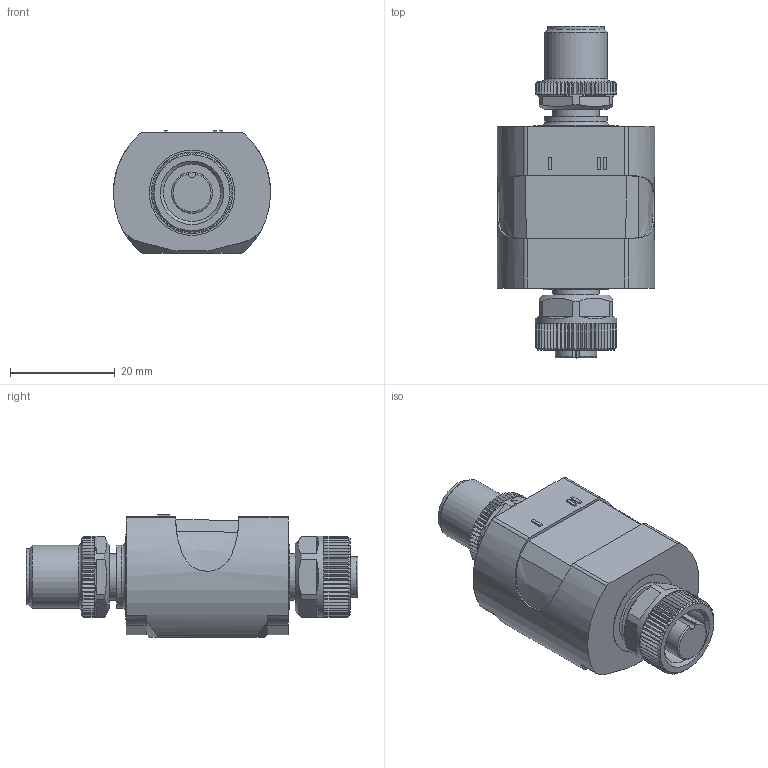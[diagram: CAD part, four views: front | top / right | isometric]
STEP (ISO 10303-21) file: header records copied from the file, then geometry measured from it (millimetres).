
FILE_DESCRIPTION( ( 'STEP AP203' ), '1' );
FILE_NAME( 'p:/temp/worker_16/temp/exporttempdir_5832_1241_ajvCy/format_0/E43406.stp', '2019-12-16T12:34:31', ( '' ), ( '' ), ' ', 'PARTsolutions', ' ' );
FILE_SCHEMA( ( 'CONFIG_CONTROL_DESIGN' ) );
Length unit declared in the file: millimetre
Products named in the file (1): _E43406
Bounding box: 30 x 63.3 x 23.3 mm (x, y, z)
Volume: 22013.6 mm3; surface area: 6600.6 mm2
Topology: 1 solids, 1 shells, 538 faces, 1539 edges, 1023 vertices
Faces by surface type: plane 475, cylinder 43, cone 15, torus 5
Full cylindrical faces by diameter (mm): 7.85 x1, 8.3 x1, 8.9 x2, 10.7 x1, 10.917 x1, 12 x2, 15.5 x2, 16.25 x2
Entity records: 17948 total; most frequent: CARTESIAN_POINT 4187, ORIENTED_EDGE 3022, DIRECTION 2666, EDGE_CURVE 1511, VERTEX_POINT 1017, AXIS2_PLACEMENT_3D 916, LINE 834, VECTOR 834
